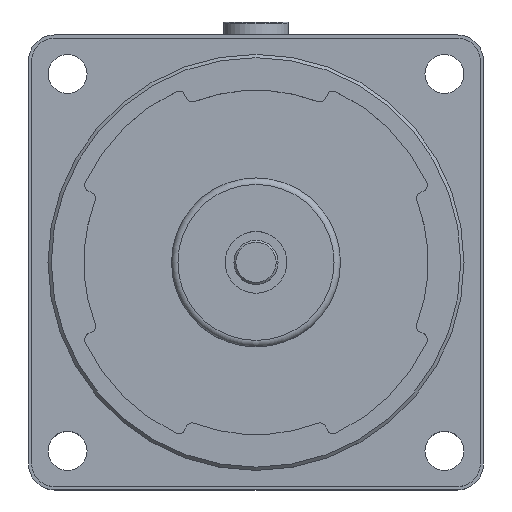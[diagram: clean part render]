
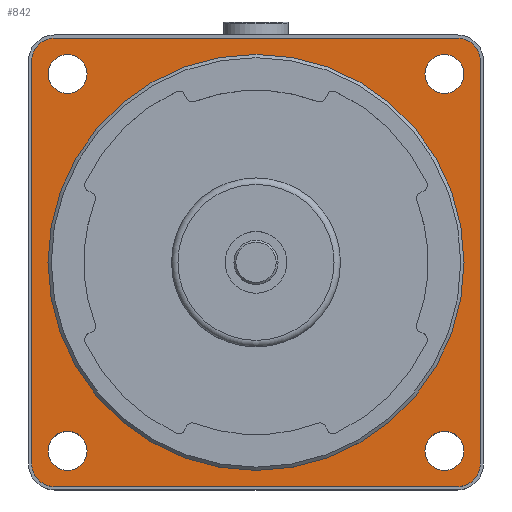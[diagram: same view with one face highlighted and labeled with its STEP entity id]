
A CAD part, top view. The second image highlights one B-rep face of the part: STEP entity #842.
In plain terms, the highlighted planar face has unit normal (0, 0, 1).
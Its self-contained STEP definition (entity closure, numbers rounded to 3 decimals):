
#12 = VERTEX_POINT ( 'NONE', #2306 ) ;
#34 = CIRCLE ( 'NONE', #1977, 3.5 ) ;
#36 = ORIENTED_EDGE ( 'NONE', *, *, #711, .T. ) ;
#82 = CIRCLE ( 'NONE', #3208, 3.5 ) ;
#99 = CARTESIAN_POINT ( 'NONE',  ( 31., 34.5, 0. ) ) ;
#105 = EDGE_CURVE ( 'NONE', #2423, #1564, #2365, .T. ) ;
#113 = CARTESIAN_POINT ( 'NONE',  ( -34.5, 31., 0. ) ) ;
#114 = EDGE_LOOP ( 'NONE', ( #2222 ) ) ;
#219 = CARTESIAN_POINT ( 'NONE',  ( 31., 31., 0. ) ) ;
#276 = CARTESIAN_POINT ( 'NONE',  ( 28.991, 31.991, 0. ) ) ;
#300 = VECTOR ( 'NONE', #561, 1000. ) ;
#301 = AXIS2_PLACEMENT_3D ( 'NONE', #447, #3168, #2856 ) ;
#340 = CARTESIAN_POINT ( 'NONE',  ( -31.991, 28.991, 0. ) ) ;
#355 = EDGE_CURVE ( 'NONE', #2501, #2048, #82, .T. ) ;
#418 = EDGE_CURVE ( 'NONE', #1672, #1672, #2261, .T. ) ;
#431 = EDGE_CURVE ( 'NONE', #814, #2423, #798, .T. ) ;
#436 = CARTESIAN_POINT ( 'NONE',  ( -28.991, -28.991, 0. ) ) ;
#447 = CARTESIAN_POINT ( 'NONE',  ( 28.991, -28.991, 0. ) ) ;
#464 = EDGE_CURVE ( 'NONE', #1374, #1374, #2139, .T. ) ;
#536 = DIRECTION ( 'NONE',  ( 0., 1., 0. ) ) ;
#559 = EDGE_LOOP ( 'NONE', ( #1717 ) ) ;
#561 = DIRECTION ( 'NONE',  ( 0., -1., 0. ) ) ;
#598 = FACE_OUTER_BOUND ( 'NONE', #891, .T. ) ;
#611 = ORIENTED_EDGE ( 'NONE', *, *, #3129, .T. ) ;
#657 = CIRCLE ( 'NONE', #2794, 3. ) ;
#691 = DIRECTION ( 'NONE',  ( 1., 0., 0. ) ) ;
#711 = EDGE_CURVE ( 'NONE', #2048, #912, #2411, .T. ) ;
#798 = LINE ( 'NONE', #2947, #1128 ) ;
#801 = DIRECTION ( 'NONE',  ( 0., 0., 1. ) ) ;
#814 = VERTEX_POINT ( 'NONE', #2554 ) ;
#836 = DIRECTION ( 'NONE',  ( 1., 0., 0. ) ) ;
#842 = ADVANCED_FACE ( 'NONE', ( #2522, #1483, #1202, #2277, #3350, #598 ), #1731, .T. ) ;
#845 = CARTESIAN_POINT ( 'NONE',  ( 32., 0., 0. ) ) ;
#891 = EDGE_LOOP ( 'NONE', ( #1148, #2720, #611, #1850, #36, #1158, #2785, #2388 ) ) ;
#912 = VERTEX_POINT ( 'NONE', #3332 ) ;
#918 = EDGE_LOOP ( 'NONE', ( #2880 ) ) ;
#954 = CARTESIAN_POINT ( 'NONE',  ( 31., -31., 0. ) ) ;
#966 = DIRECTION ( 'NONE',  ( 0., -1., 0. ) ) ;
#970 = DIRECTION ( 'NONE',  ( 0., 0., 1. ) ) ;
#975 = CARTESIAN_POINT ( 'NONE',  ( -31., 34.5, 0. ) ) ;
#986 = EDGE_CURVE ( 'NONE', #2690, #2690, #2648, .T. ) ;
#1128 = VECTOR ( 'NONE', #1611, 1000. ) ;
#1148 = ORIENTED_EDGE ( 'NONE', *, *, #431, .T. ) ;
#1158 = ORIENTED_EDGE ( 'NONE', *, *, #2011, .T. ) ;
#1169 = VERTEX_POINT ( 'NONE', #1599 ) ;
#1202 = FACE_BOUND ( 'NONE', #559, .T. ) ;
#1224 = DIRECTION ( 'NONE',  ( 0., 0., 1. ) ) ;
#1322 = CARTESIAN_POINT ( 'NONE',  ( -34.5, 31., 0. ) ) ;
#1337 = CARTESIAN_POINT ( 'NONE',  ( 31.991, -28.991, 0. ) ) ;
#1374 = VERTEX_POINT ( 'NONE', #845 ) ;
#1396 = CARTESIAN_POINT ( 'NONE',  ( 28.991, 28.991, 0. ) ) ;
#1410 = DIRECTION ( 'NONE',  ( 0., 0., 1. ) ) ;
#1414 = LINE ( 'NONE', #2223, #1890 ) ;
#1473 = AXIS2_PLACEMENT_3D ( 'NONE', #3071, #1410, #2485 ) ;
#1483 = FACE_BOUND ( 'NONE', #918, .T. ) ;
#1489 = DIRECTION ( 'NONE',  ( -1., 0., 0. ) ) ;
#1496 = EDGE_LOOP ( 'NONE', ( #2711 ) ) ;
#1504 = DIRECTION ( 'NONE',  ( 0., 0., 1. ) ) ;
#1508 = DIRECTION ( 'NONE',  ( 1., 0., 0. ) ) ;
#1525 = AXIS2_PLACEMENT_3D ( 'NONE', #219, #801, #1854 ) ;
#1533 = AXIS2_PLACEMENT_3D ( 'NONE', #2791, #970, #1489 ) ;
#1536 = CIRCLE ( 'NONE', #3284, 3.5 ) ;
#1564 = VERTEX_POINT ( 'NONE', #99 ) ;
#1573 = EDGE_CURVE ( 'NONE', #2744, #2744, #3055, .T. ) ;
#1576 = EDGE_CURVE ( 'NONE', #12, #814, #34, .T. ) ;
#1599 = CARTESIAN_POINT ( 'NONE',  ( -31., -34.5, 0. ) ) ;
#1611 = DIRECTION ( 'NONE',  ( 0., 1., 0. ) ) ;
#1663 = VECTOR ( 'NONE', #2014, 1000. ) ;
#1672 = VERTEX_POINT ( 'NONE', #276 ) ;
#1717 = ORIENTED_EDGE ( 'NONE', *, *, #1573, .F. ) ;
#1731 = PLANE ( 'NONE',  #1473 ) ;
#1745 = VERTEX_POINT ( 'NONE', #3069 ) ;
#1850 = ORIENTED_EDGE ( 'NONE', *, *, #355, .T. ) ;
#1854 = DIRECTION ( 'NONE',  ( 1., 0., 0. ) ) ;
#1861 = AXIS2_PLACEMENT_3D ( 'NONE', #3339, #2027, #3056 ) ;
#1890 = VECTOR ( 'NONE', #2966, 1000. ) ;
#1977 = AXIS2_PLACEMENT_3D ( 'NONE', #954, #3376, #1508 ) ;
#2011 = EDGE_CURVE ( 'NONE', #912, #1169, #1536, .T. ) ;
#2014 = DIRECTION ( 'NONE',  ( 1., 0., 0. ) ) ;
#2027 = DIRECTION ( 'NONE',  ( 0., 0., 1. ) ) ;
#2048 = VERTEX_POINT ( 'NONE', #113 ) ;
#2122 = ORIENTED_EDGE ( 'NONE', *, *, #986, .F. ) ;
#2139 = CIRCLE ( 'NONE', #1861, 32. ) ;
#2222 = ORIENTED_EDGE ( 'NONE', *, *, #418, .F. ) ;
#2223 = CARTESIAN_POINT ( 'NONE',  ( 31., 34.5, 0. ) ) ;
#2240 = CARTESIAN_POINT ( 'NONE',  ( -31., -31., 0. ) ) ;
#2261 = CIRCLE ( 'NONE', #3390, 3. ) ;
#2277 = FACE_BOUND ( 'NONE', #114, .T. ) ;
#2306 = CARTESIAN_POINT ( 'NONE',  ( 31., -34.5, 0. ) ) ;
#2365 = CIRCLE ( 'NONE', #1525, 3.5 ) ;
#2388 = ORIENTED_EDGE ( 'NONE', *, *, #1576, .T. ) ;
#2411 = LINE ( 'NONE', #1322, #300 ) ;
#2423 = VERTEX_POINT ( 'NONE', #2760 ) ;
#2472 = DIRECTION ( 'NONE',  ( 0., 0., 1. ) ) ;
#2485 = DIRECTION ( 'NONE',  ( 1., 0., 0. ) ) ;
#2501 = VERTEX_POINT ( 'NONE', #975 ) ;
#2522 = FACE_BOUND ( 'NONE', #1496, .T. ) ;
#2524 = EDGE_LOOP ( 'NONE', ( #2122 ) ) ;
#2554 = CARTESIAN_POINT ( 'NONE',  ( 34.5, -31., 0. ) ) ;
#2648 = CIRCLE ( 'NONE', #301, 3. ) ;
#2690 = VERTEX_POINT ( 'NONE', #1337 ) ;
#2711 = ORIENTED_EDGE ( 'NONE', *, *, #464, .F. ) ;
#2720 = ORIENTED_EDGE ( 'NONE', *, *, #105, .T. ) ;
#2744 = VERTEX_POINT ( 'NONE', #340 ) ;
#2760 = CARTESIAN_POINT ( 'NONE',  ( 34.5, 31., 0. ) ) ;
#2785 = ORIENTED_EDGE ( 'NONE', *, *, #2884, .T. ) ;
#2791 = CARTESIAN_POINT ( 'NONE',  ( -28.991, 28.991, 0. ) ) ;
#2794 = AXIS2_PLACEMENT_3D ( 'NONE', #436, #1504, #966 ) ;
#2856 = DIRECTION ( 'NONE',  ( 1., 0., 0. ) ) ;
#2880 = ORIENTED_EDGE ( 'NONE', *, *, #3217, .F. ) ;
#2884 = EDGE_CURVE ( 'NONE', #1169, #12, #3458, .T. ) ;
#2912 = CARTESIAN_POINT ( 'NONE',  ( -31., -34.5, 0. ) ) ;
#2947 = CARTESIAN_POINT ( 'NONE',  ( 34.5, -31., 0. ) ) ;
#2966 = DIRECTION ( 'NONE',  ( -1., 0., 0. ) ) ;
#2967 = CARTESIAN_POINT ( 'NONE',  ( -31., 31., 0. ) ) ;
#3001 = DIRECTION ( 'NONE',  ( 0., 0., 1. ) ) ;
#3055 = CIRCLE ( 'NONE', #1533, 3. ) ;
#3056 = DIRECTION ( 'NONE',  ( 1., 0., 0. ) ) ;
#3069 = CARTESIAN_POINT ( 'NONE',  ( -28.991, -31.991, 0. ) ) ;
#3071 = CARTESIAN_POINT ( 'NONE',  ( 0., 0., 0. ) ) ;
#3129 = EDGE_CURVE ( 'NONE', #1564, #2501, #1414, .T. ) ;
#3168 = DIRECTION ( 'NONE',  ( 0., 0., 1. ) ) ;
#3208 = AXIS2_PLACEMENT_3D ( 'NONE', #2967, #3001, #836 ) ;
#3217 = EDGE_CURVE ( 'NONE', #1745, #1745, #657, .T. ) ;
#3284 = AXIS2_PLACEMENT_3D ( 'NONE', #2240, #1224, #691 ) ;
#3332 = CARTESIAN_POINT ( 'NONE',  ( -34.5, -31., 0. ) ) ;
#3339 = CARTESIAN_POINT ( 'NONE',  ( 0., 0., 0. ) ) ;
#3350 = FACE_BOUND ( 'NONE', #2524, .T. ) ;
#3376 = DIRECTION ( 'NONE',  ( 0., 0., 1. ) ) ;
#3390 = AXIS2_PLACEMENT_3D ( 'NONE', #1396, #2472, #536 ) ;
#3458 = LINE ( 'NONE', #2912, #1663 ) ;
